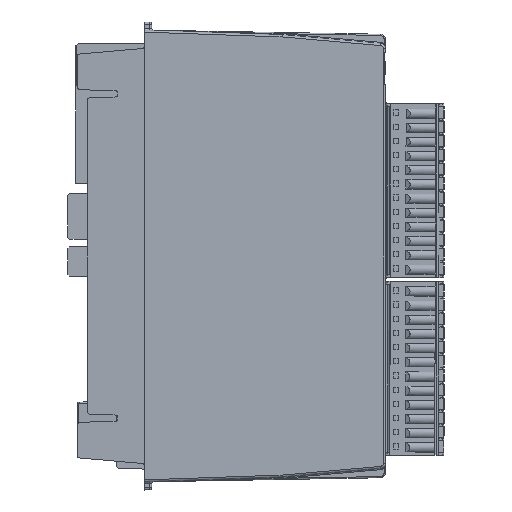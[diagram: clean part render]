
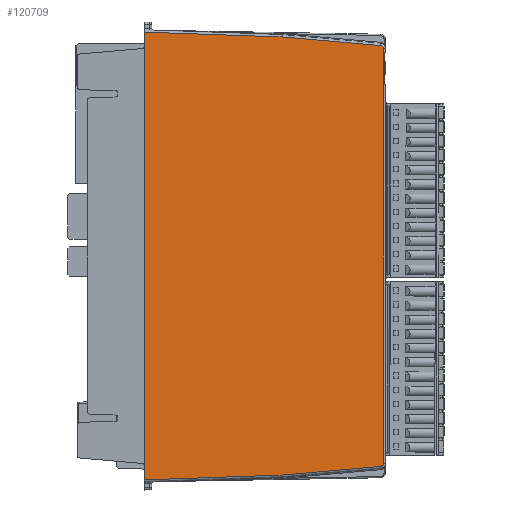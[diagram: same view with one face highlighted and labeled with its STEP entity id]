
A CAD part, left-side view. The second image highlights one B-rep face of the part: STEP entity #120709.
In plain terms, the highlighted planar face has unit normal (-1, -0.018, 0).
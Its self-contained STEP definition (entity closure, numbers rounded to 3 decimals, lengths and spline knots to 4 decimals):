
#990=ELLIPSE('',#128872,0.0315,0.0315);
#991=ELLIPSE('',#128873,0.0315,0.0315);
#5756=PLANE('',#128871);
#10810=FACE_OUTER_BOUND('',#17349,.T.);
#17349=EDGE_LOOP('',(#94494,#94495,#94496,#94497,#94498,#94499,#94500,#94501,
#94502,#94503));
#31894=LINE('',#188848,#44314);
#31895=LINE('',#188850,#44315);
#31896=LINE('',#188852,#44316);
#31897=LINE('',#188854,#44317);
#31898=LINE('',#188856,#44318);
#31899=LINE('',#188860,#44319);
#31900=LINE('',#188864,#44320);
#31901=LINE('',#188865,#44321);
#44314=VECTOR('',#150048,39.3701);
#44315=VECTOR('',#150049,39.3701);
#44316=VECTOR('',#150050,39.3701);
#44317=VECTOR('',#150051,39.3701);
#44318=VECTOR('',#150052,39.3701);
#44319=VECTOR('',#150055,39.3701);
#44320=VECTOR('',#150058,39.3701);
#44321=VECTOR('',#150059,39.3701);
#55600=VERTEX_POINT('',#188846);
#55601=VERTEX_POINT('',#188847);
#55602=VERTEX_POINT('',#188849);
#55603=VERTEX_POINT('',#188851);
#55604=VERTEX_POINT('',#188853);
#55605=VERTEX_POINT('',#188855);
#55606=VERTEX_POINT('',#188857);
#55607=VERTEX_POINT('',#188859);
#55608=VERTEX_POINT('',#188861);
#55609=VERTEX_POINT('',#188863);
#69481=EDGE_CURVE('',#55600,#55601,#31894,.T.);
#69482=EDGE_CURVE('',#55602,#55601,#31895,.T.);
#69483=EDGE_CURVE('',#55602,#55603,#31896,.T.);
#69484=EDGE_CURVE('',#55603,#55604,#31897,.T.);
#69485=EDGE_CURVE('',#55604,#55605,#31898,.T.);
#69486=EDGE_CURVE('',#55605,#55606,#990,.T.);
#69487=EDGE_CURVE('',#55606,#55607,#31899,.T.);
#69488=EDGE_CURVE('',#55607,#55608,#991,.T.);
#69489=EDGE_CURVE('',#55608,#55609,#31900,.T.);
#69490=EDGE_CURVE('',#55609,#55600,#31901,.T.);
#94494=ORIENTED_EDGE('',*,*,#69481,.T.);
#94495=ORIENTED_EDGE('',*,*,#69482,.F.);
#94496=ORIENTED_EDGE('',*,*,#69483,.T.);
#94497=ORIENTED_EDGE('',*,*,#69484,.T.);
#94498=ORIENTED_EDGE('',*,*,#69485,.T.);
#94499=ORIENTED_EDGE('',*,*,#69486,.T.);
#94500=ORIENTED_EDGE('',*,*,#69487,.T.);
#94501=ORIENTED_EDGE('',*,*,#69488,.T.);
#94502=ORIENTED_EDGE('',*,*,#69489,.T.);
#94503=ORIENTED_EDGE('',*,*,#69490,.T.);
#120709=ADVANCED_FACE('',(#10810),#5756,.T.);
#128871=AXIS2_PLACEMENT_3D('',#188845,#150046,#150047);
#128872=AXIS2_PLACEMENT_3D('',#188858,#150053,#150054);
#128873=AXIS2_PLACEMENT_3D('',#188862,#150056,#150057);
#150046=DIRECTION('center_axis',(-1.,-0.017,
0.));
#150047=DIRECTION('ref_axis',(-0.017,1.,0.));
#150048=DIRECTION('',(0.,0.,-1.));
#150049=DIRECTION('',(0.,0.,1.));
#150050=DIRECTION('',(0.,0.,-1.));
#150051=DIRECTION('',(0.017,-0.999,0.035));
#150052=DIRECTION('',(0.017,-0.996,0.087));
#150053=DIRECTION('center_axis',(-1.,-0.017,
0.));
#150054=DIRECTION('ref_axis',(0.017,-1.,0.));
#150055=DIRECTION('',(0.,0.,1.));
#150056=DIRECTION('center_axis',(-1.,-0.017,
0.));
#150057=DIRECTION('ref_axis',(0.017,-1.,0.));
#150058=DIRECTION('',(-0.017,0.996,0.087));
#150059=DIRECTION('',(-0.017,0.999,0.035));
#188845=CARTESIAN_POINT('Origin',(-0.0296,-0.489,
-2.0669));
#188846=CARTESIAN_POINT('',(-0.0227,-0.8827,0.1083));
#188847=CARTESIAN_POINT('',(-0.0227,-0.8827,-0.0312));
#188848=CARTESIAN_POINT('',(-0.0227,-0.8827,0.128));
#188849=CARTESIAN_POINT('',(-0.0227,-0.8827,-4.1027));
#188850=CARTESIAN_POINT('',(-0.0227,-0.8827,-7.5932));
#188851=CARTESIAN_POINT('',(-0.0227,-0.8827,-4.2421));
#188852=CARTESIAN_POINT('',(-0.0227,-0.8827,0.128));
#188853=CARTESIAN_POINT('',(0.0007,-2.2205,-4.1954));
#188854=CARTESIAN_POINT('',(-0.0282,-0.5654,-4.2532));
#188855=CARTESIAN_POINT('',(0.0174,-3.1772,-4.1117));
#188856=CARTESIAN_POINT('',(-0.0261,-0.6869,-4.3296));
#188857=CARTESIAN_POINT('',(0.0179,-3.2059,-4.0803));
#188858=CARTESIAN_POINT('Origin',(0.0173,-3.1744,
-4.0803));
#188859=CARTESIAN_POINT('',(0.0179,-3.2059,-0.0535));
#188860=CARTESIAN_POINT('',(0.0179,-3.2059,-0.0535));
#188861=CARTESIAN_POINT('',(0.0174,-3.1772,-0.0221));
#188862=CARTESIAN_POINT('Origin',(0.0173,-3.1744,
-0.0535));
#188863=CARTESIAN_POINT('',(0.0007,-2.2205,0.0616));
#188864=CARTESIAN_POINT('',(-0.0261,-0.6869,0.1957));
#188865=CARTESIAN_POINT('',(-0.0282,-0.5654,0.1194));
